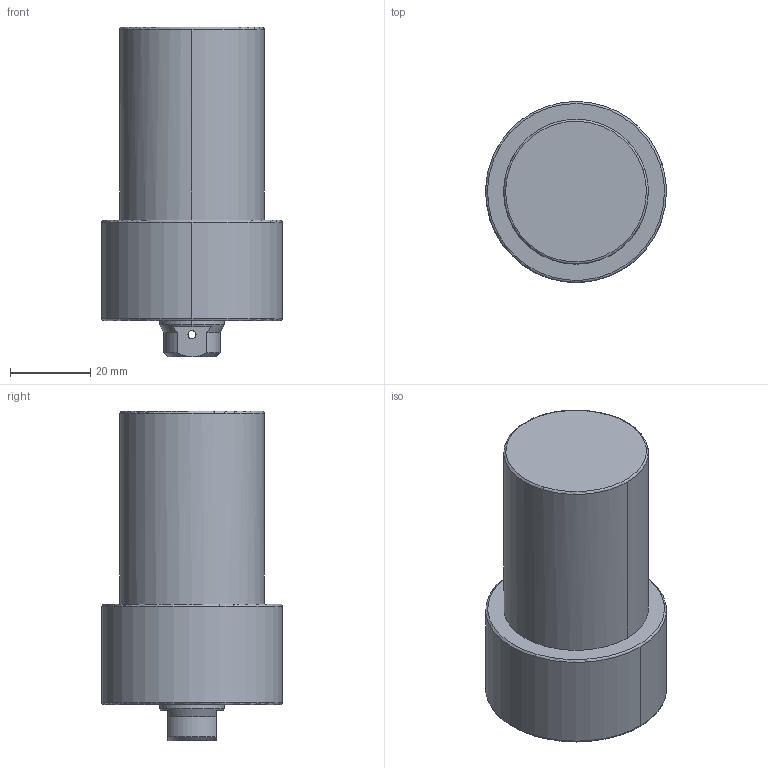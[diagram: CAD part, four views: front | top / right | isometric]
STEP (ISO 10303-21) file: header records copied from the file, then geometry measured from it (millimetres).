
FILE_DESCRIPTION((' '),'2;1');
FILE_NAME( 'TLLU-036GB-040.STEP.stp', '2025-10-24T16:37:05', (' '), ('--- Datakit www.datakit.com---'), ' Datakit CrossCadWare V2024.1 Dec 21 2023', 'Mastercam 2025', ' ');
FILE_SCHEMA(('AUTOMOTIVE_DESIGN { 1 0 10303 214 1 1 1 1 }'));
Length unit declared in the file: millimetre
Products named in the file (1): TLLU-036GB-040
Bounding box: 44.99 x 45 x 82 mm (x, y, z)
Volume: 89002.5 mm3; surface area: 13293 mm2
Topology: 1 solids, 1 shells, 66 faces, 192 edges, 125 vertices
Faces by surface type: cylinder 26, cone 24, plane 10, torus 6
Entity records: 2820 total; most frequent: CARTESIAN_POINT 1010, DIRECTION 412, ORIENTED_EDGE 364, EDGE_CURVE 182, AXIS2_PLACEMENT_3D 179, VERTEX_POINT 125, CIRCLE 112, EDGE_LOOP 77
